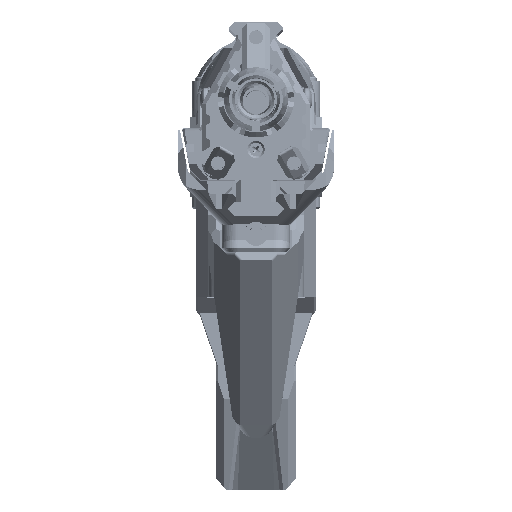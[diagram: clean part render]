
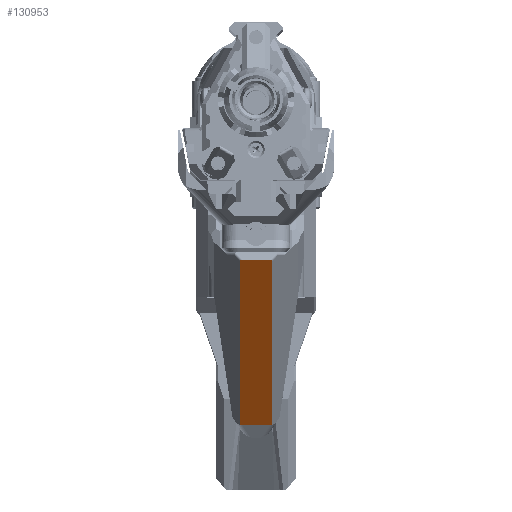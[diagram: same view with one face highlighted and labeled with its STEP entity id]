
A CAD part, top view. The second image highlights one B-rep face of the part: STEP entity #130953.
In plain terms, the highlighted planar face has unit normal (0, -0.604, 0.797).
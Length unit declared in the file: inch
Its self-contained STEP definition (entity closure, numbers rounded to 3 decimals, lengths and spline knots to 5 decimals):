
#1487=ELLIPSE('',#140232,0.15618,0.1016);
#1494=ELLIPSE('',#140244,0.15618,0.1016);
#1495=ELLIPSE('',#140246,0.57388,0.3175);
#1496=ELLIPSE('',#140247,0.57388,0.3175);
#17126=VECTOR('',#165245,1.);
#17133=VECTOR('',#165264,1.);
#17134=VECTOR('',#165267,1.);
#17135=VECTOR('',#165270,1.);
#29220=LINE('',#261158,#17126);
#29227=LINE('',#261178,#17133);
#29228=LINE('',#261182,#17134);
#29229=LINE('',#261186,#17135);
#34096=PLANE('',#140245);
#46050=VERTEX_POINT('',#261136);
#46051=VERTEX_POINT('',#261137);
#46059=VERTEX_POINT('',#261157);
#46065=VERTEX_POINT('',#261175);
#46066=VERTEX_POINT('',#261179);
#46067=VERTEX_POINT('',#261181);
#46068=VERTEX_POINT('',#261183);
#46069=VERTEX_POINT('',#261185);
#67308=EDGE_CURVE('',#46050,#46051,#1487,.T.);
#67319=EDGE_CURVE('',#46059,#46050,#29220,.T.);
#67327=EDGE_CURVE('',#46065,#46059,#1494,.T.);
#67329=EDGE_CURVE('',#46066,#46065,#29227,.T.);
#67330=EDGE_CURVE('',#46067,#46066,#1495,.T.);
#67331=EDGE_CURVE('',#46067,#46068,#29228,.T.);
#67332=EDGE_CURVE('',#46069,#46068,#1496,.T.);
#67333=EDGE_CURVE('',#46051,#46069,#29229,.T.);
#104343=ORIENTED_EDGE('',*,*,#67308,.F.);
#104344=ORIENTED_EDGE('',*,*,#67319,.F.);
#104345=ORIENTED_EDGE('',*,*,#67327,.F.);
#104346=ORIENTED_EDGE('',*,*,#67329,.F.);
#104347=ORIENTED_EDGE('',*,*,#67330,.F.);
#104348=ORIENTED_EDGE('',*,*,#67331,.T.);
#104349=ORIENTED_EDGE('',*,*,#67332,.F.);
#104350=ORIENTED_EDGE('',*,*,#67333,.F.);
#115953=EDGE_LOOP('',(#104343,#104344,#104345,#104346,#104347,#104348,#104349,
#104350));
#123761=FACE_BOUND('',#115953,.T.);
#130953=ADVANCED_FACE('',(#123761),#34096,.T.);
#140232=AXIS2_PLACEMENT_3D('',#261135,#165226,#165227);
#140244=AXIS2_PLACEMENT_3D('',#261174,#165260,#165261);
#140245=AXIS2_PLACEMENT_3D('',#261177,#165263,$);
#140246=AXIS2_PLACEMENT_3D('',#261180,#165265,#165266);
#140247=AXIS2_PLACEMENT_3D('',#261184,#165268,#165269);
#165226=DIRECTION('',(0.,0.604,-0.797));
#165227=DIRECTION('',(0.134,0.064,0.049));
#165245=DIRECTION('',(1.,0.,0.));
#165260=DIRECTION('',(0.,0.604,-0.797));
#165261=DIRECTION('',(-0.134,0.064,0.049));
#165263=DIRECTION('',(0.,-0.604,0.797));
#165264=DIRECTION('',(0.,0.797,0.604));
#165265=DIRECTION('',(0.,0.604,-0.797));
#165266=DIRECTION('',(0.138,-0.444,-0.336));
#165267=DIRECTION('',(1.,0.,0.));
#165268=DIRECTION('',(0.,0.604,-0.797));
#165269=DIRECTION('',(-0.138,-0.444,-0.336));
#165270=DIRECTION('',(0.,-0.797,-0.604));
#261135=CARTESIAN_POINT('',(0.49132,-6.44457,35.64715));
#261136=CARTESIAN_POINT('',(0.54375,-6.35,35.71875));
#261137=CARTESIAN_POINT('',(0.635,-6.41006,35.67328));
#261157=CARTESIAN_POINT('',(-0.54375,-6.35,35.71875));
#261158=CARTESIAN_POINT('',(-1.905,-6.35,35.71875));
#261174=CARTESIAN_POINT('',(-0.49132,-6.44457,35.64715));
#261175=CARTESIAN_POINT('',(-0.635,-6.41006,35.67328));
#261177=CARTESIAN_POINT('',(-1.905,-9.62243,33.24105));
#261178=CARTESIAN_POINT('',(-0.635,-9.55918,33.28894));
#261179=CARTESIAN_POINT('',(-0.635,-12.87927,30.77516));
#261180=CARTESIAN_POINT('',(-0.64159,-12.44656,31.10278));
#261181=CARTESIAN_POINT('',(-0.54697,-12.89487,30.76335));
#261182=CARTESIAN_POINT('',(-1.905,-12.89487,30.76335));
#261183=CARTESIAN_POINT('',(0.54697,-12.89487,30.76335));
#261184=CARTESIAN_POINT('',(0.64159,-12.44656,31.10278));
#261185=CARTESIAN_POINT('',(0.635,-12.87927,30.77516));
#261186=CARTESIAN_POINT('',(0.635,-9.55918,33.28894));
